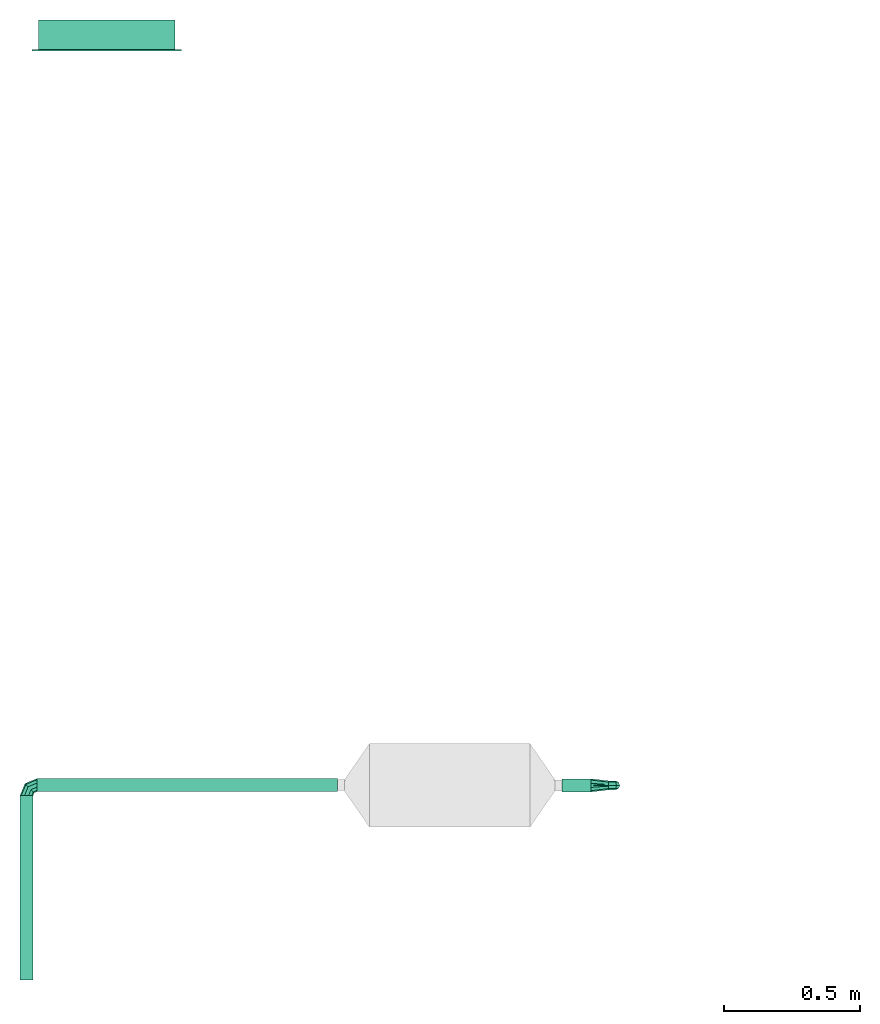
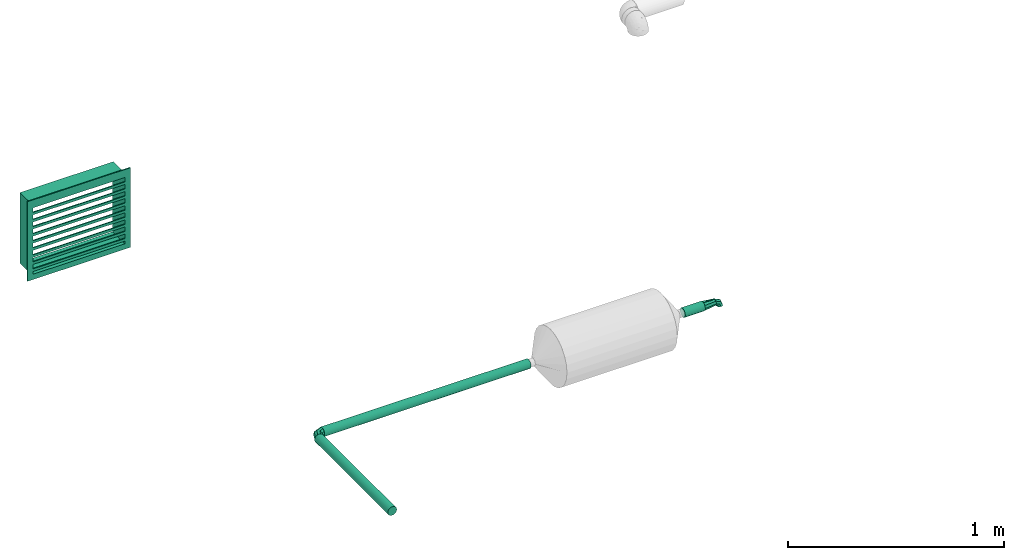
# One storey, part 5 of 6: 3 flow fittings, 3 flow segments, 1 flow terminal.
"""IFC2X3 building model written with IfcOpenShell, lengths in millimetres."""

from ifc_helpers import new_model, entity, si_unit, converted_unit, derived_unit, direction, frame, frame_2d, origin, origin_2d_with_axis, place, context, subcontext, project, spatial, polyline, rectangle, circle, outline, extrude, faceted_brep, source, transform, mapped, material, material_list, type_object, type_shapes, element, save


model = new_model("IFC2X3")

# Units and contexts
model_context = context("Model", 3, precision=0.01, world=origin(), true_north=direction((6.123031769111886e-17, 1.0)))
body_context = subcontext(model_context, "Body", "Model", "MODEL_VIEW")
ifc_project = project(units=[si_unit("LENGTHUNIT", "METRE", prefix="MILLI"), si_unit("AREAUNIT", "SQUARE_METRE"), si_unit("VOLUMEUNIT", "CUBIC_METRE"), converted_unit("PLANEANGLEUNIT", "DEGREE", entity("IfcRatioMeasure", 0.017453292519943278), si_unit("PLANEANGLEUNIT", "RADIAN"), dimensions=[0, 0, 0, 0, 0, 0, 0]), si_unit("MASSUNIT", "GRAM", prefix="KILO"), derived_unit("MASSDENSITYUNIT", [(si_unit("MASSUNIT", "GRAM", prefix="KILO"), 1), (si_unit("LENGTHUNIT", "METRE"), -3)]), derived_unit("IONCONCENTRATIONUNIT", [(si_unit("MASSUNIT", "GRAM", prefix="KILO"), 1), (si_unit("LENGTHUNIT", "METRE"), -3)]), derived_unit("MOMENTOFINERTIAUNIT", [(si_unit("LENGTHUNIT", "METRE"), 4)]), si_unit("TIMEUNIT", "SECOND"), si_unit("FREQUENCYUNIT", "HERTZ"), si_unit("THERMODYNAMICTEMPERATUREUNIT", "DEGREE_CELSIUS"), derived_unit("THERMALTRANSMITTANCEUNIT", [(si_unit("MASSUNIT", "GRAM", prefix="KILO"), 1), (si_unit("THERMODYNAMICTEMPERATUREUNIT", "KELVIN"), -1), (si_unit("TIMEUNIT", "SECOND"), -3)]), derived_unit("THERMALCONDUCTANCEUNIT", [(si_unit("MASSUNIT", "GRAM", prefix="KILO"), 1), (si_unit("THERMODYNAMICTEMPERATUREUNIT", "KELVIN"), -1), (si_unit("TIMEUNIT", "SECOND"), -3), (si_unit("LENGTHUNIT", "METRE"), 1)]), derived_unit("VOLUMETRICFLOWRATEUNIT", [(si_unit("LENGTHUNIT", "METRE"), 3), (si_unit("TIMEUNIT", "SECOND"), -1)]), derived_unit("MASSFLOWRATEUNIT", [(si_unit("MASSUNIT", "GRAM", prefix="KILO"), 1), (si_unit("TIMEUNIT", "SECOND"), -1)]), derived_unit("ROTATIONALFREQUENCYUNIT", [(si_unit("TIMEUNIT", "SECOND"), -1)]), si_unit("ELECTRICCURRENTUNIT", "AMPERE"), si_unit("ELECTRICVOLTAGEUNIT", "VOLT"), si_unit("POWERUNIT", "WATT"), si_unit("FORCEUNIT", "NEWTON", prefix="KILO"), si_unit("ILLUMINANCEUNIT", "LUX"), si_unit("LUMINOUSFLUXUNIT", "LUMEN"), si_unit("LUMINOUSINTENSITYUNIT", "CANDELA"), derived_unit("USERDEFINED", [(si_unit("MASSUNIT", "GRAM", prefix="KILO"), -1), (si_unit("LENGTHUNIT", "METRE"), -2), (si_unit("TIMEUNIT", "SECOND"), 3), (si_unit("LUMINOUSFLUXUNIT", "LUMEN"), 1)]), derived_unit("USERDEFINED", [(si_unit("MASSUNIT", "GRAM", prefix="KILO"), 1), (si_unit("TIMEUNIT", "SECOND"), -3), (si_unit("LENGTHUNIT", "METRE"), 3), (si_unit("ELECTRICCURRENTUNIT", "AMPERE"), -2)]), derived_unit("SOUNDPOWERUNIT", [(si_unit("MASSUNIT", "GRAM", prefix="KILO"), 1), (si_unit("TIMEUNIT", "SECOND"), -3), (si_unit("LENGTHUNIT", "METRE"), 2)]), derived_unit("SOUNDPRESSUREUNIT", [(si_unit("MASSUNIT", "GRAM", prefix="KILO"), 1), (si_unit("LENGTHUNIT", "METRE"), -1), (si_unit("TIMEUNIT", "SECOND"), -2)]), derived_unit("LINEARVELOCITYUNIT", [(si_unit("LENGTHUNIT", "METRE"), 1), (si_unit("TIMEUNIT", "SECOND"), -1)]), si_unit("PRESSUREUNIT", "PASCAL"), derived_unit("USERDEFINED", [(si_unit("MASSUNIT", "GRAM", prefix="KILO"), 1), (si_unit("LENGTHUNIT", "METRE"), -2), (si_unit("TIMEUNIT", "SECOND"), -2)]), derived_unit("LINEARFORCEUNIT", [(si_unit("MASSUNIT", "GRAM", prefix="KILO"), 1), (si_unit("TIMEUNIT", "SECOND"), -2)]), derived_unit("PLANARFORCEUNIT", [(si_unit("MASSUNIT", "GRAM", prefix="KILO"), 1), (si_unit("LENGTHUNIT", "METRE"), -1), (si_unit("TIMEUNIT", "SECOND"), -2)]), derived_unit("SPECIFICHEATCAPACITYUNIT", [(si_unit("THERMODYNAMICTEMPERATUREUNIT", "KELVIN"), -1), (si_unit("LENGTHUNIT", "METRE"), 2), (si_unit("TIMEUNIT", "SECOND"), -2)]), derived_unit("HEATINGVALUEUNIT", [(si_unit("LENGTHUNIT", "METRE"), 2), (si_unit("TIMEUNIT", "SECOND"), -2)]), derived_unit("VAPORPERMEABILITYUNIT", [(si_unit("LENGTHUNIT", "METRE"), -1), (si_unit("TIMEUNIT", "SECOND"), 1)]), derived_unit("DYNAMICVISCOSITYUNIT", [(si_unit("MASSUNIT", "GRAM", prefix="KILO"), 1), (si_unit("TIMEUNIT", "SECOND"), -1), (si_unit("LENGTHUNIT", "METRE"), -1)]), derived_unit("THERMALEXPANSIONCOEFFICIENTUNIT", [(si_unit("THERMODYNAMICTEMPERATUREUNIT", "KELVIN"), -1)]), derived_unit("MODULUSOFELASTICITYUNIT", [(si_unit("MASSUNIT", "GRAM", prefix="KILO"), 1), (si_unit("LENGTHUNIT", "METRE"), -1), (si_unit("TIMEUNIT", "SECOND"), -2)]), derived_unit("ISOTHERMALMOISTURECAPACITYUNIT", [(si_unit("LENGTHUNIT", "METRE"), 3), (si_unit("MASSUNIT", "GRAM", prefix="KILO"), -1)]), derived_unit("MOISTUREDIFFUSIVITYUNIT", [(si_unit("TIMEUNIT", "SECOND"), -1), (si_unit("LENGTHUNIT", "METRE"), 2)])], contexts=[model_context])

# Site, building, storey
site_placement = place(None, origin())
site = spatial("IfcSite", under=ifc_project, at=site_placement, Name="Default", CompositionType="ELEMENT")
building_placement = place(site_placement, origin())
building = spatial("IfcBuilding", under=site, at=building_placement, CompositionType="ELEMENT")
storey_placement = place(building_placement, frame((0.0, 0.0, 3000.0)))
storey = spatial("IfcBuildingStorey", under=building, at=storey_placement, Name="Niveau 1", CompositionType="ELEMENT", Elevation=3000.0)

# Flow segments
pipe_segment_type = type_object("IfcPipeSegmentType", Name="Canalisation:Bride acier", PredefinedType="NOTDEFINED")
flow_segment_1_placement = place(storey_placement, origin())
element("IfcFlowSegment", 1, at=flow_segment_1_placement, inside=storey, type_object=pipe_segment_type, Name="Canalisation:Bride acier", ObjectType="Canalisation:Bride acier", context=body_context, shape_type="SweptSolid", body=[
    extrude(circle(Radius=24.13, at=origin_2d_with_axis()), frame((-11592.038466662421, 7396.071425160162, 275.0), z_axis=(1.0, 0.0, 0.0), x_axis=(0.0, -1.0, 0.0)), (0.0, 0.0, 1.0), 107.03671540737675),
])
flow_segment_2_placement = place(storey_placement, origin())
element("IfcFlowSegment", 2, at=flow_segment_2_placement, inside=storey, type_object=pipe_segment_type, Name="Canalisation:Bride acier", ObjectType="Canalisation:Bride acier", context=body_context, shape_type="SweptSolid", body=[
    extrude(circle(Radius=24.13, at=frame_2d((0.0, -5.414335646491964e-13), x_axis=(1.0, 0.0))), frame((-13557.173210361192, 6681.595493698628, 275.0), z_axis=(0.0, 1.0, 0.0), x_axis=(1.0, 0.0, 0.0)), (0.0, 0.0, 1.0), 677.3120230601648),
])
flow_segment_3_placement = place(storey_placement, origin())
element("IfcFlowSegment", 3, at=flow_segment_3_placement, inside=storey, type_object=pipe_segment_type, Name="Canalisation:Bride acier", ObjectType="Canalisation:Bride acier", context=body_context, shape_type="SweptSolid", body=[
    extrude(circle(Radius=24.13, at=frame_2d((1.0828671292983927e-12, 0.0), x_axis=(1.0, 0.0))), frame((-13519.173210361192, 7396.9075167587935, 275.0), z_axis=(1.0, 0.0, 0.0), x_axis=(0.0, 1.0, 0.0)), (0.0, 0.0, 1.0), 1103.1347436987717),
])

# Flow fittings
ifc_material_1 = material(Name="<Unnamed>")
pipe_fitting_type_1 = type_object("IfcPipeFittingType", Name="Coude - Générique:Standard", PredefinedType="NOTDEFINED", material=ifc_material_1)
shared_shape_1 = source(origin(), body_context, "Body", "Brep", [
    faceted_brep([(5.946686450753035, -5.946686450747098, 0.0), (2.6853405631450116, -2.685340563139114, -14.195013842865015), (19.537760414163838, 38.0, -14.195013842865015), (24.1500000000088, 38.0, 0.0), (-5.852973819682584, 5.852973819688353, -22.968014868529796), (7.462760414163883, 38.0, -22.968014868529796), (-16.40691081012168, 16.40691081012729, -22.96801486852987), (-7.462760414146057, 38.0, -22.96801486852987), (-24.94522519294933, 24.94522519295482, -14.195013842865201), (-19.537760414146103, 38.0, -14.195013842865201), (-28.206571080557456, 28.206571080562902, 0.0), (-24.149999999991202, 38.0, 0.0), (-24.945225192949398, 24.945225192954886, 14.195013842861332), (-19.5377604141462, 38.0, 14.195013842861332), (-16.406910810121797, 16.40691081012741, 22.968014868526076), (-7.462760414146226, 38.0, 22.968014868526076), (-5.852973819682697, 5.852973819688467, 22.968014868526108), (7.462760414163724, 38.0, 22.968014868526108), (2.6853405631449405, -2.685340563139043, 14.195013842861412), (19.53776041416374, 38.0, 14.195013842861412), (-38.0, -24.150000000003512, 0.0), (-38.0, -19.53776041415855, -14.195013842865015), (-38.0, -7.462760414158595, -22.968014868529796), (-38.0, 7.462760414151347, -22.96801486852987), (-38.0, 19.537760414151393, -14.195013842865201), (-38.0, 24.149999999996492, 0.0), (-38.0, 19.537760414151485, 14.195013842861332), (-38.0, 7.462760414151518, 22.968014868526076), (-38.0, -7.462760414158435, 22.968014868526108), (-38.0, -19.537760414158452, 14.195013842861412)], [[[0, 1, 2, 3]], [[1, 4, 5, 2]], [[4, 6, 7, 5]], [[6, 8, 9, 7]], [[8, 10, 11, 9]], [[10, 12, 13, 11]], [[12, 14, 15, 13]], [[14, 16, 17, 15]], [[16, 18, 19, 17]], [[18, 0, 3, 19]], [[20, 21, 1, 0]], [[21, 22, 4, 1]], [[22, 23, 6, 4]], [[23, 24, 8, 6]], [[24, 25, 10, 8]], [[25, 26, 12, 10]], [[26, 27, 14, 12]], [[27, 28, 16, 14]], [[28, 29, 18, 16]], [[29, 20, 0, 18]], [[3, 2, 5, 7, 9, 11, 13, 15, 17, 19]], [[29, 28, 27, 26, 25, 24, 23, 22, 21, 20]]]),
])
type_shapes(pipe_fitting_type_1, [shared_shape_1])
flow_fitting_1_placement = place(storey_placement, frame((-13557.173210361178, 7396.907516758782, 275.0), z_axis=(0.0, 0.0, 1.0), x_axis=(-1.0, 0.0, 0.0)))
element("IfcFlowFitting", 4, at=flow_fitting_1_placement, inside=storey, type_object=pipe_fitting_type_1, material=ifc_material_1, Name="Coude - Générique:Standard", ObjectType="Coude - Générique:Standard", context=body_context, shape_type="MappedRepresentation", body=[
    mapped(shared_shape_1, transform((0.0, 0.0, 0.0), scale=1.0)),
])
pipe_fitting_type_2 = type_object("IfcPipeFittingType", Name="Coude - Générique:Standard", PredefinedType="NOTDEFINED", material=ifc_material_1)
shared_shape_2 = source(origin(), body_context, "Body", "Brep", [
    faceted_brep([(4.486352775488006, -4.486352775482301, 0.0), (1.0276695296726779, -1.0276695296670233, -11.808683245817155), (11.808683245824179, 25.0, -11.808683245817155), (16.70000000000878, 25.0, 0.0), (-7.322330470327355, 7.322330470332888, -16.700000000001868), (0.0, 25.0, -16.700000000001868), (-15.672330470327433, 15.672330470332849, -11.808683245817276), (-11.808683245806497, 25.0, -11.808683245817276), (-19.131013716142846, 19.13101371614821, 0.0), (-16.699999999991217, 25.0, 0.0), (-15.672330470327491, 15.672330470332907, 11.808683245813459), (-11.808683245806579, 25.0, 11.808683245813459), (-7.322330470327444, 7.322330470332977, 16.699999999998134), (0.0, 25.0, 16.699999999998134), (1.0276695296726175, -1.027669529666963, 11.808683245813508), (11.808683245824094, 25.0, 11.808683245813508), (-25.0, -16.700000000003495, 0.0), (-25.0, -11.808683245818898, -11.808683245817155), (-25.0, 0.0, -16.700000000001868), (-25.0, 11.808683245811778, -11.808683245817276), (-25.0, 16.699999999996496, 0.0), (-25.0, 11.80868324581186, 11.808683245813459), (-25.0, 0.0, 16.699999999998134), (-25.0, -11.808683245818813, 11.808683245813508)], [[[0, 1, 2, 3]], [[1, 4, 5, 2]], [[4, 6, 7, 5]], [[6, 8, 9, 7]], [[8, 10, 11, 9]], [[10, 12, 13, 11]], [[12, 14, 15, 13]], [[14, 0, 3, 15]], [[16, 17, 1, 0]], [[17, 18, 4, 1]], [[18, 19, 6, 4]], [[19, 20, 8, 6]], [[20, 21, 10, 8]], [[21, 22, 12, 10]], [[22, 23, 14, 12]], [[23, 16, 0, 14]], [[3, 2, 5, 7, 9, 11, 13, 15]], [[23, 22, 21, 20, 19, 18, 17, 16]]]),
])
type_shapes(pipe_fitting_type_2, [shared_shape_2])
flow_fitting_2_placement = place(storey_placement, frame((-11396.001751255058, 7396.071425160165, 275.0), z_axis=(0.0, 1.0, 0.0), x_axis=(1.0, 0.0, 0.0)))
element("IfcFlowFitting", 5, at=flow_fitting_2_placement, inside=storey, type_object=pipe_fitting_type_2, material=ifc_material_1, Name="Coude - Générique:Standard", ObjectType="Coude - Générique:Standard", context=body_context, shape_type="MappedRepresentation", body=[
    mapped(shared_shape_2, transform((0.0, 0.0, 0.0), scale=1.0)),
])
pipe_fitting_type_3 = type_object("IfcPipeFittingType", Name="Transformation - Générique:Standard", PredefinedType="NOTDEFINED", material=ifc_material_1)
shared_shape_3 = source(origin(), body_context, "Body", "Brep", [
    faceted_brep([(64.0, 16.699999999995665, 0.0), (64.0, 15.477170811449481, 2.9521708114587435), (64.0, 14.254341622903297, 5.904341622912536), (64.0, 13.031512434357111, 8.85651243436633), (64.0, 11.808683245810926, 11.808683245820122), (64.0, 8.856512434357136, 13.031512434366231), (64.0, 5.9043416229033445, 14.25434162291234), (64.0, 2.952170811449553, 15.477170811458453), (64.0, 0.0, 16.700000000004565), (64.0, -2.9521708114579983, 15.477170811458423), (64.0, -5.904341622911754, 14.254341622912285), (64.0, -8.856512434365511, 13.031512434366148), (64.0, -11.808683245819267, 11.80868324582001), (64.0, -13.031512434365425, 8.856512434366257), (64.0, -14.254341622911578, 5.904341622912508), (64.0, -15.477170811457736, 2.9521708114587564), (64.0, -16.700000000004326, 0.0), (64.0, -15.477170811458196, -2.9521708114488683), (64.0, -14.254341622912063, -5.9043416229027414), (64.0, -13.031512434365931, -8.856512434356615), (64.0, -11.808683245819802, -11.80868324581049), (64.0, -8.856512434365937, -13.03151243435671), (64.0, -5.904341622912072, -14.254341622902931), (64.0, -2.9521708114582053, -15.477170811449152), (64.0, 0.0, -16.699999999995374), (64.0, 2.952170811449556, -15.477170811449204), (64.0, 5.904341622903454, -14.25434162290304), (64.0, 8.856512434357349, -13.031512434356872), (64.0, 11.808683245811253, -11.808683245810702), (64.0, 13.031512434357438, -8.85651243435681), (64.0, 14.254341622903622, -5.904341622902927), (64.0, 15.477170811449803, -2.952170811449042), (0.0, 13.500260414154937, 18.581514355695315), (0.0, 19.537760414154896, 14.195013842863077), (0.0, 20.690820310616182, 10.646260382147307), (0.0, 21.843880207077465, 7.097506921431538), (0.0, 24.150000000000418, 0.0), (0.0, 21.843880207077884, -7.097506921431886), (0.0, 19.537760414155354, -14.195013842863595), (0.0, 13.500260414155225, -18.58151435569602), (0.0, 7.4627604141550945, -22.96801486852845), (0.0, 0.0, -22.96801486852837), (0.0, -7.4627604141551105, -22.968014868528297), (0.0, -13.500260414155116, -18.581514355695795), (0.0, -19.537760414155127, -14.195013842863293), (0.0, -20.690820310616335, -10.646260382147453), (0.0, -21.84388020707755, -7.0975069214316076), (0.0, -24.149999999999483, 0.0), (0.0, -21.84388020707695, 7.097506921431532), (0.0, -19.53776041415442, 14.195013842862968), (0.0, -13.50026041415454, 18.581514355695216), (0.0, -7.462760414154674, 22.968014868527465), (0.0, 0.0, 22.968014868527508), (0.0, 7.462760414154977, 22.96801486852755)], [[[0, 1, 2, 3, 4, 5, 6, 7, 8, 9, 10, 11, 12, 13, 14, 15, 16, 17, 18, 19, 20, 21, 22, 23, 24, 25, 26, 27, 28, 29, 30, 31]], [[32, 33, 34, 35, 36, 37, 38, 39, 40, 41, 42, 43, 44, 45, 46, 47, 48, 49, 50, 51, 52, 53]], [[44, 20, 19]], [[39, 38, 28]], [[18, 46, 45]], [[39, 28, 27, 26]], [[36, 31, 37]], [[26, 40, 39]], [[41, 25, 24]], [[29, 28, 38, 30]], [[20, 44, 43]], [[23, 41, 24]], [[47, 17, 16]], [[30, 38, 37]], [[43, 22, 21, 20]], [[17, 47, 46]], [[41, 23, 42]], [[40, 25, 41]], [[40, 26, 25]], [[23, 22, 42]], [[31, 36, 0]], [[18, 17, 46]], [[44, 19, 45]], [[19, 18, 45]], [[22, 43, 42]], [[31, 30, 37]], [[33, 4, 3]], [[50, 49, 12]], [[2, 35, 34]], [[50, 12, 11, 10]], [[47, 15, 48]], [[10, 51, 50]], [[52, 9, 8]], [[13, 12, 49, 14]], [[4, 33, 32]], [[7, 52, 8]], [[36, 1, 0]], [[14, 49, 48]], [[32, 6, 5, 4]], [[1, 36, 35]], [[52, 7, 53]], [[51, 9, 52]], [[51, 10, 9]], [[7, 6, 53]], [[15, 47, 16]], [[2, 1, 35]], [[33, 3, 34]], [[3, 2, 34]], [[6, 32, 53]], [[15, 14, 48]]]),
])
type_shapes(pipe_fitting_type_3, [shared_shape_3])
flow_fitting_3_placement = place(storey_placement, frame((-11485.001751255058, 7396.071425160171, 275.0)))
element("IfcFlowFitting", 6, at=flow_fitting_3_placement, inside=storey, type_object=pipe_fitting_type_3, material=ifc_material_1, Name="Transformation - Générique:Standard", ObjectType="Transformation - Générique:Standard", context=body_context, shape_type="MappedRepresentation", body=[
    mapped(shared_shape_3, transform((0.0, 0.0, 0.0), scale=1.0)),
])

# Flow terminal
ifc_material_2 = material(Name="Color RGB 153-152-151")
ifc_material_3 = material(Name="Color RGB 245-245-245")
ifc_material_4 = material(Name="Color RGB 078-078-078")
ifc_material_list = material_list([ifc_material_2, ifc_material_3, ifc_material_4])
air_terminal_type = type_object("IfcAirTerminalType", Name="Grille Entrée d'air Chaufferie:THIS IS A TYPE CATALOG FAMILY", PredefinedType="GRILLE", material=ifc_material_list)
shared_shape_4 = source(origin(), body_context, "Body", "SweptSolid", [
    extrude(rectangle(XDim=5.000000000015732, YDim=490.0000000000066, at=origin_2d_with_axis()), frame((56.50000000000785, 0.0, -179.58614558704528), z_axis=(0.0, 0.0, 1.0), x_axis=(-1.0, 0.0, 0.0)), (0.0, 0.0, 1.0), 14.586145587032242),
    extrude(rectangle(XDim=5.000000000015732, YDim=490.0000000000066, at=origin_2d_with_axis()), frame((56.50000000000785, 0.0, -139.5861455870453), z_axis=(0.0, 0.0, 1.0), x_axis=(-1.0, 0.0, 0.0)), (0.0, 0.0, 1.0), 14.586145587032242),
    extrude(rectangle(XDim=5.000000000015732, YDim=490.0000000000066, at=origin_2d_with_axis()), frame((56.50000000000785, 0.0, -99.58614558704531), z_axis=(0.0, 0.0, 1.0), x_axis=(-1.0, 0.0, 0.0)), (0.0, 0.0, 1.0), 14.586145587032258),
    extrude(rectangle(XDim=5.000000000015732, YDim=490.0000000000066, at=origin_2d_with_axis()), frame((56.50000000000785, 0.0, -59.586145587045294), z_axis=(0.0, 0.0, 1.0), x_axis=(-1.0, 0.0, 0.0)), (0.0, 0.0, 1.0), 14.586145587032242),
    extrude(rectangle(XDim=5.000000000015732, YDim=490.0000000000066, at=origin_2d_with_axis()), frame((56.50000000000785, 0.0, -19.58614558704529), z_axis=(0.0, 0.0, 1.0), x_axis=(-1.0, 0.0, 0.0)), (0.0, 0.0, 1.0), 14.586145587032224),
    extrude(rectangle(XDim=5.000000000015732, YDim=490.0000000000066, at=origin_2d_with_axis()), frame((56.50000000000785, 0.0, 20.413854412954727), z_axis=(0.0, 0.0, 1.0), x_axis=(-1.0, 0.0, 0.0)), (0.0, 0.0, 1.0), 14.586145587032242),
    extrude(rectangle(XDim=5.000000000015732, YDim=490.0000000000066, at=origin_2d_with_axis()), frame((56.50000000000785, 0.0, 60.41385441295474), z_axis=(0.0, 0.0, 1.0), x_axis=(-1.0, 0.0, 0.0)), (0.0, 0.0, 1.0), 14.586145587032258),
    extrude(rectangle(XDim=5.000000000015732, YDim=490.0000000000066, at=origin_2d_with_axis()), frame((56.50000000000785, 0.0, 100.41385441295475), z_axis=(0.0, 0.0, 1.0), x_axis=(-1.0, 0.0, 0.0)), (0.0, 0.0, 1.0), 14.586145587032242),
    extrude(rectangle(XDim=5.000000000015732, YDim=490.0000000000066, at=origin_2d_with_axis()), frame((56.50000000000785, 0.0, 140.41385441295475), z_axis=(0.0, 0.0, 1.0), x_axis=(-1.0, 0.0, 0.0)), (0.0, 0.0, 1.0), 14.586145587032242),
    extrude(rectangle(XDim=5.000000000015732, YDim=490.0000000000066, at=origin_2d_with_axis()), frame((56.50000000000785, 0.0, 180.41385441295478), z_axis=(0.0, 0.0, 1.0), x_axis=(-1.0, 0.0, 0.0)), (0.0, 0.0, 1.0), 14.586145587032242),
    extrude(outline(polyline([(-225.0, -275.0), (225.0, -275.0), (225.0, 275.0), (-225.0, 275.0), (-225.0, -275.0)]), holes=[polyline([(-195.0, -245.0), (-195.0, 245.0), (195.0, 245.0), (195.0, -245.0), (-195.0, -245.0)])]), frame((54.0, 0.0, 0.0), z_axis=(1.0, 0.0, 0.0), x_axis=(0.0, 0.0, -1.0)), (0.0, 0.0, 1.0), 5.000000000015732),
    extrude(outline(polyline([(-200.0, -250.0), (200.0, -250.0), (200.0, 250.0), (-200.0, 250.0), (-200.0, -250.0)]), holes=[polyline([(-195.0, -245.0), (-195.0, 245.0), (195.0, 245.0), (195.0, -245.0), (-195.0, -245.0)])]), frame((-54.0, 0.0, 0.0), z_axis=(1.0, 0.0, 0.0), x_axis=(0.0, 0.0, -1.0)), (0.0, 0.0, 1.0), 107.99999999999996),
])
type_shapes(air_terminal_type, [shared_shape_4])
flow_terminal_placement = place(storey_placement, frame((-13262.933412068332, 10151.470546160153, -277.45958016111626), z_axis=(0.0, 0.0, 1.0), x_axis=(0.0, -1.0, 0.0)))
element("IfcFlowTerminal", 7, at=flow_terminal_placement, inside=storey, type_object=air_terminal_type, material=ifc_material_list, Name="Grille Entrée d'air Chaufferie:THIS IS A TYPE CATALOG FAMILY", ObjectType="Grille Entrée d'air Chaufferie:THIS IS A TYPE CATALOG FAMILY", context=body_context, shape_type="MappedRepresentation", body=[
    mapped(shared_shape_4, transform((0.0, 0.0, 0.0), scale=1.0)),
])

save(model, "model.ifc")
